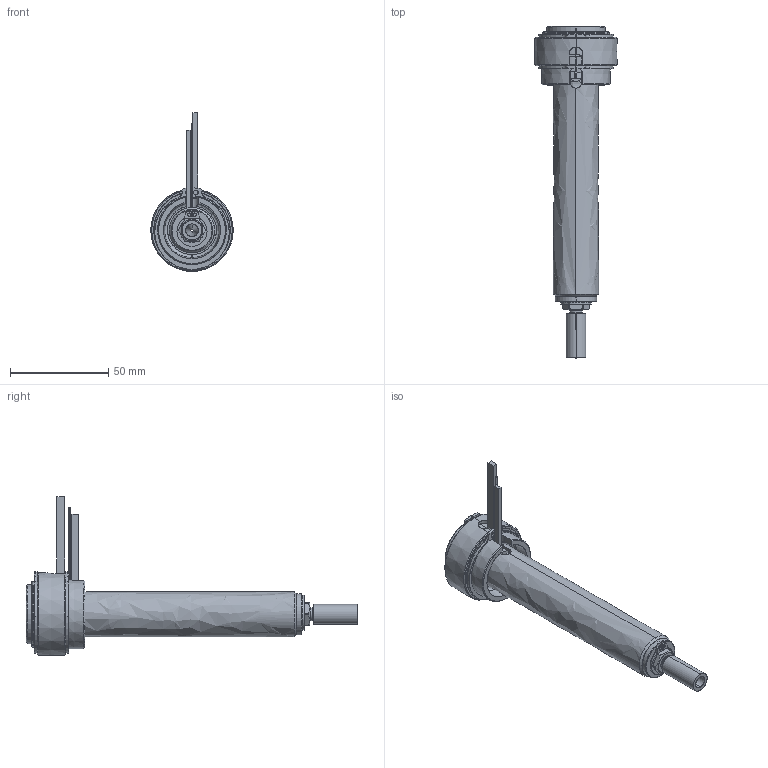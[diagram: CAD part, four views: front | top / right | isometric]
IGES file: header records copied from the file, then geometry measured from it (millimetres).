
Start section: SolidWorks IGES file using analytic representation for surfaces
Global section: file name: C:\Users\luca.EMPAD\Desktop\TEM\UGBE3503-M-A-P-5 [Ød-1.5 P-20 ØC-7.0].IGS; native system: SolidWorks 2012; preprocessor: SolidWorks 2012; author: luca; date: 120330.140515; units: millimetre
Bounding box: 42 x 169 x 80.9 mm (x, y, z)
Surface area: 37876.6 mm2 (no closed solid volume)
Topology: 0 solids, 0 shells, 184 faces, 3258 edges, 3258 vertices
Faces by surface type: revolution 118, bspline 66
